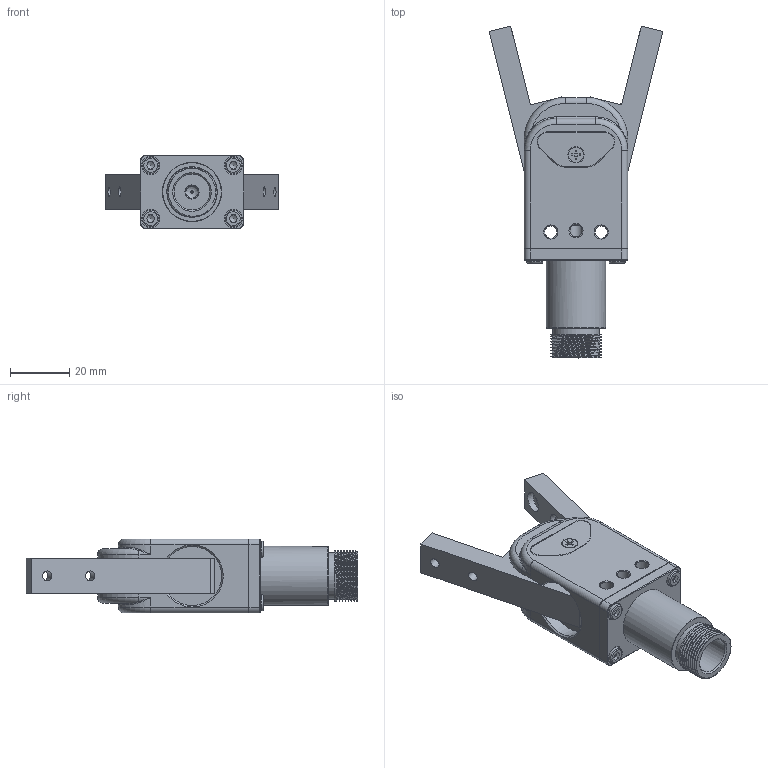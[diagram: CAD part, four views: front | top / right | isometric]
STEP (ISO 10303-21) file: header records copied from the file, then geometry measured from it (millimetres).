
FILE_DESCRIPTION(/* description */ (''),/* implementation_level */ '2;1');
FILE_NAME(/* name */ '_model1.stp',/* time_stamp */ '2023-03-08T15:47:21+08:00',/* author */ (''),/* organization */ (''),/* preprocessor_version */ 'ST-DEVELOPER v16',/* originating_system */ 'SIEMENS PLM Software NX 10.0',/* authorisation */ '');
FILE_SCHEMA (('AUTOMOTIVE_DESIGN { 1 0 10303 214 3 1 1 1 }'));
Length unit declared in the file: millimetre
Products named in the file (1): Admi115498B06jai
Bounding box: 58.75 x 112.31 x 25 mm (x, y, z)
Volume: 50957.1 mm3; surface area: 19470.4 mm2
Topology: 1 solids, 14 shells, 486 faces, 1144 edges, 710 vertices
Faces by surface type: plane 201, cylinder 137, cone 104, bspline 28, torus 16
Full cylindrical faces by diameter (mm): 0.8 x1, 2.5 x4, 3 x28, 3.2 x1, 3.3 x4, 3.4 x4, 3.541 x4, 4 x4, 4.2 x6, 5 x4, 5.2 x1, 5.5 x4, 6 x4, 7 x4, 7.8 x2, 12 x1, 15.8 x1, 20 x1
Entity records: 23180 total; most frequent: CARTESIAN_POINT 13189, DIRECTION 2096, ORIENTED_EDGE 1770, EDGE_CURVE 885, AXIS2_PLACEMENT_3D 855, EDGE_LOOP 729, VERTEX_POINT 642, ADVANCED_FACE 483
